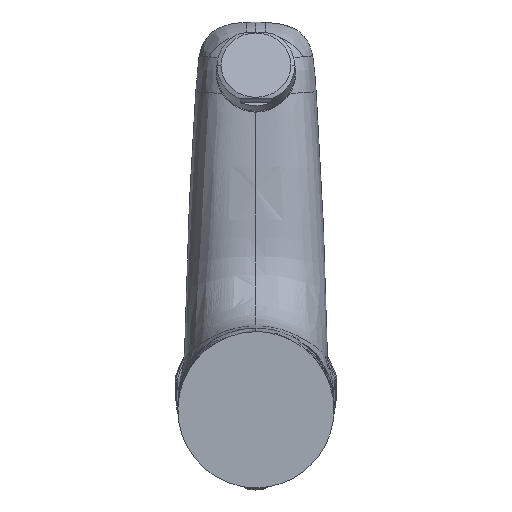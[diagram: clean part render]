
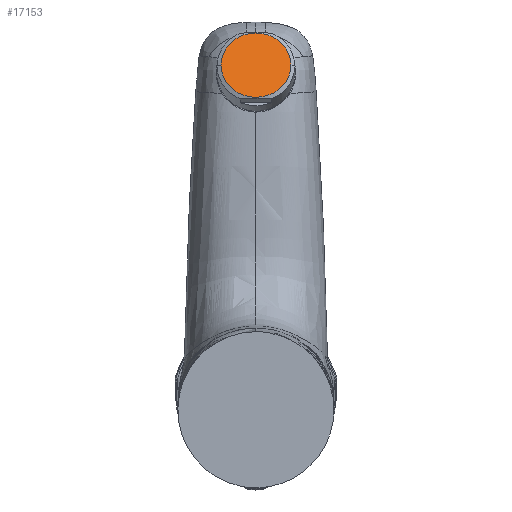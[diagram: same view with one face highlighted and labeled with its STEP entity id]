
A CAD part, front view. The second image highlights one B-rep face of the part: STEP entity #17153.
In plain terms, the highlighted planar face has unit normal (0, -0.92, 0.391).
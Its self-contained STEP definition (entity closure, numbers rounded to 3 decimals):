
#1150 = DIRECTION ( 'NONE',  ( 0., 0.921, -0.391 ) ) ;
#1209 = PLANE ( 'NONE',  #8055 ) ;
#3516 = EDGE_CURVE ( 'NONE', #14266, #15027, #10027, .T. ) ;
#3729 = DIRECTION ( 'NONE',  ( 0., 0.921, -0.391 ) ) ;
#5589 = DIRECTION ( 'NONE',  ( 0., -0.921, 0.391 ) ) ;
#5718 = CIRCLE ( 'NONE', #20146, 10.8 ) ;
#7864 = CARTESIAN_POINT ( 'NONE',  ( -22.68, 383.244, 479.954 ) ) ;
#7934 = AXIS2_PLACEMENT_3D ( 'NONE', #16549, #3729, #18686 ) ;
#8055 = AXIS2_PLACEMENT_3D ( 'NONE', #18398, #5589, #20564 ) ;
#10027 = CIRCLE ( 'NONE', #7934, 10.8 ) ;
#12342 = CARTESIAN_POINT ( 'NONE',  ( -44.28, 383.244, 479.954 ) ) ;
#13957 = CARTESIAN_POINT ( 'NONE',  ( -33.48, 383.244, 479.954 ) ) ;
#14021 = ORIENTED_EDGE ( 'NONE', *, *, #24288, .F. ) ;
#14266 = VERTEX_POINT ( 'NONE', #7864 ) ;
#15027 = VERTEX_POINT ( 'NONE', #12342 ) ;
#16107 = DIRECTION ( 'NONE',  ( 1., 0., 0. ) ) ;
#16549 = CARTESIAN_POINT ( 'NONE',  ( -33.48, 383.244, 479.954 ) ) ;
#17153 = ADVANCED_FACE ( 'NONE', ( #27187 ), #1209, .T. ) ;
#17830 = ORIENTED_EDGE ( 'NONE', *, *, #3516, .F. ) ;
#18398 = CARTESIAN_POINT ( 'NONE',  ( -33.48, 379.024, 470.013 ) ) ;
#18686 = DIRECTION ( 'NONE',  ( 1., 0., 0. ) ) ;
#20146 = AXIS2_PLACEMENT_3D ( 'NONE', #13957, #1150, #16107 ) ;
#20564 = DIRECTION ( 'NONE',  ( -1., 0., 0. ) ) ;
#24288 = EDGE_CURVE ( 'NONE', #15027, #14266, #5718, .T. ) ;
#26150 = EDGE_LOOP ( 'NONE', ( #17830, #14021 ) ) ;
#27187 = FACE_OUTER_BOUND ( 'NONE', #26150, .T. ) ;
